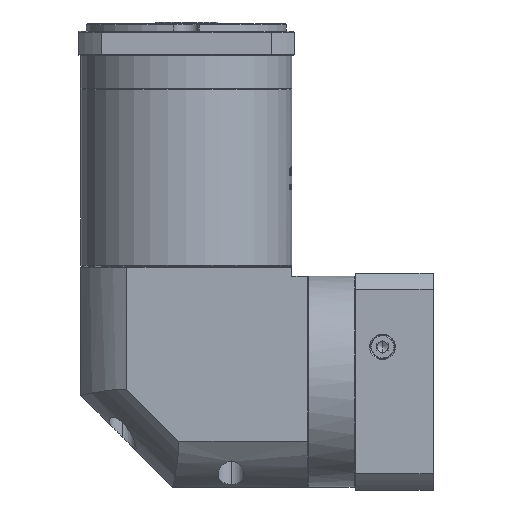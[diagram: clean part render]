
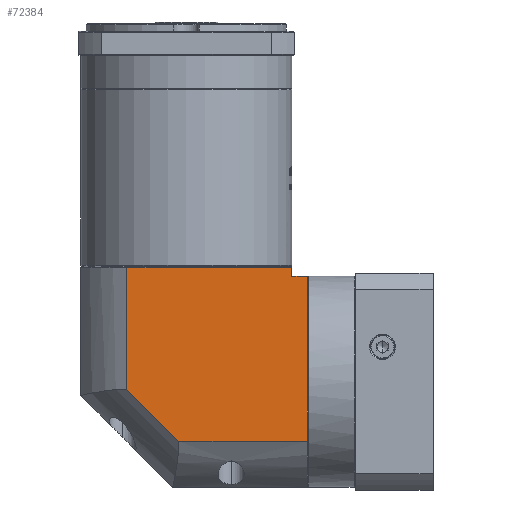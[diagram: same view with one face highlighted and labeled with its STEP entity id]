
A CAD part, left-side view. The second image highlights one B-rep face of the part: STEP entity #72384.
In plain terms, the highlighted planar face has unit normal (-1, 0, 0).
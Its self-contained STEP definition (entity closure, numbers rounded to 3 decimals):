
#1960 = EDGE_CURVE ( 'NONE', #105521, #43566, #128848, .T. ) ;
#2779 = EDGE_CURVE ( 'NONE', #14436, #64750, #13723, .T. ) ;
#4142 = DIRECTION ( 'NONE',  ( 0., -1., 0. ) ) ;
#6114 = LINE ( 'NONE', #146339, #134791 ) ;
#11843 = ORIENTED_EDGE ( 'NONE', *, *, #81162, .F. ) ;
#13723 = LINE ( 'NONE', #97002, #138221 ) ;
#14436 = VERTEX_POINT ( 'NONE', #164061 ) ;
#14514 = CARTESIAN_POINT ( 'NONE',  ( -248.495, -96.921, 99.88 ) ) ;
#14935 = ORIENTED_EDGE ( 'NONE', *, *, #47952, .T. ) ;
#16948 = CARTESIAN_POINT ( 'NONE',  ( -248.495, 18.079, 104.88 ) ) ;
#17438 = DIRECTION ( 'NONE',  ( 0., 0., 1. ) ) ;
#18208 = ORIENTED_EDGE ( 'NONE', *, *, #1960, .F. ) ;
#19094 = ORIENTED_EDGE ( 'NONE', *, *, #2779, .F. ) ;
#20900 = DIRECTION ( 'NONE',  ( 0., 0., 1. ) ) ;
#25897 = CARTESIAN_POINT ( 'NONE',  ( -248.495, -96.921, 104.88 ) ) ;
#25922 = DIRECTION ( 'NONE',  ( 0., 1., 0. ) ) ;
#38760 = CARTESIAN_POINT ( 'NONE',  ( -248.495, -96.921, 99.88 ) ) ;
#39639 = DIRECTION ( 'NONE',  ( 1., 0., 0. ) ) ;
#39737 = CARTESIAN_POINT ( 'NONE',  ( -248.495, 18.079, 9.98 ) ) ;
#40011 = EDGE_LOOP ( 'NONE', ( #11843, #19094, #146955, #157612, #14935, #75948, #18208 ) ) ;
#43566 = VERTEX_POINT ( 'NONE', #25897 ) ;
#43989 = CARTESIAN_POINT ( 'NONE',  ( -248.495, -7.022, 38.319 ) ) ;
#47952 = EDGE_CURVE ( 'NONE', #70167, #58087, #158935, .T. ) ;
#51091 = CARTESIAN_POINT ( 'NONE',  ( -248.495, -105.321, 9.98 ) ) ;
#55091 = LINE ( 'NONE', #83568, #94375 ) ;
#57227 = EDGE_CURVE ( 'NONE', #58087, #43566, #6114, .T. ) ;
#58087 = VERTEX_POINT ( 'NONE', #14514 ) ;
#60265 = LINE ( 'NONE', #93084, #117665 ) ;
#61394 = CARTESIAN_POINT ( 'NONE',  ( -248.495, -7.022, 104.88 ) ) ;
#64750 = VERTEX_POINT ( 'NONE', #43989 ) ;
#65082 = DIRECTION ( 'NONE',  ( 0., 1., 0. ) ) ;
#70167 = VERTEX_POINT ( 'NONE', #135437 ) ;
#72384 = ADVANCED_FACE ( 'NONE', ( #90641 ), #128598, .F. ) ;
#75948 = ORIENTED_EDGE ( 'NONE', *, *, #57227, .T. ) ;
#76886 = LINE ( 'NONE', #39737, #140179 ) ;
#79879 = EDGE_CURVE ( 'NONE', #87632, #14436, #76886, .T. ) ;
#81162 = EDGE_CURVE ( 'NONE', #64750, #105521, #60265, .T. ) ;
#83568 = CARTESIAN_POINT ( 'NONE',  ( -248.495, -105.321, 111.38 ) ) ;
#85434 = DIRECTION ( 'NONE',  ( 0., 0.707, 0.707 ) ) ;
#87632 = VERTEX_POINT ( 'NONE', #51091 ) ;
#90641 = FACE_OUTER_BOUND ( 'NONE', #40011, .T. ) ;
#93084 = CARTESIAN_POINT ( 'NONE',  ( -248.495, -7.022, 111.38 ) ) ;
#94375 = VECTOR ( 'NONE', #134475, 1000. ) ;
#97002 = CARTESIAN_POINT ( 'NONE',  ( -248.495, -35.36, 9.98 ) ) ;
#102661 = CARTESIAN_POINT ( 'NONE',  ( -248.495, 18.079, 111.38 ) ) ;
#105521 = VERTEX_POINT ( 'NONE', #61394 ) ;
#117665 = VECTOR ( 'NONE', #17438, 1000. ) ;
#128598 = PLANE ( 'NONE',  #129846 ) ;
#128848 = LINE ( 'NONE', #16948, #152700 ) ;
#129846 = AXIS2_PLACEMENT_3D ( 'NONE', #102661, #39639, #65082 ) ;
#131352 = VECTOR ( 'NONE', #151538, 1000. ) ;
#134475 = DIRECTION ( 'NONE',  ( 0., 0., -1. ) ) ;
#134791 = VECTOR ( 'NONE', #20900, 1000. ) ;
#135437 = CARTESIAN_POINT ( 'NONE',  ( -248.495, -105.321, 99.88 ) ) ;
#138221 = VECTOR ( 'NONE', #85434, 1000. ) ;
#140179 = VECTOR ( 'NONE', #25922, 1000. ) ;
#146339 = CARTESIAN_POINT ( 'NONE',  ( -248.495, -96.921, -15.12 ) ) ;
#146955 = ORIENTED_EDGE ( 'NONE', *, *, #79879, .F. ) ;
#147502 = EDGE_CURVE ( 'NONE', #70167, #87632, #55091, .T. ) ;
#151538 = DIRECTION ( 'NONE',  ( 0., 1., 0. ) ) ;
#152700 = VECTOR ( 'NONE', #4142, 1000. ) ;
#157612 = ORIENTED_EDGE ( 'NONE', *, *, #147502, .F. ) ;
#158935 = LINE ( 'NONE', #38760, #131352 ) ;
#164061 = CARTESIAN_POINT ( 'NONE',  ( -248.495, -35.36, 9.98 ) ) ;
